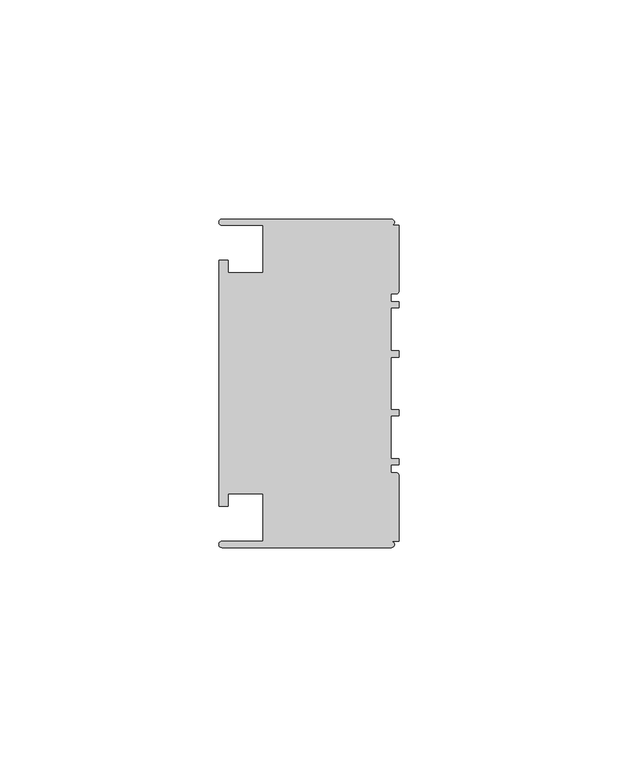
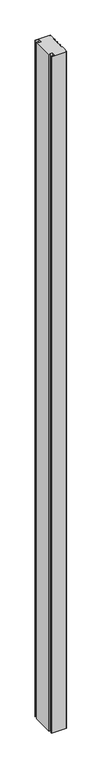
"""IFC4 building model written with IfcOpenShell, lengths in millimetres: member geometry, Прямоугольный импост : 3-AMG-2-Профиль 40Х75 Верх П."""

from ifc_helpers import new_model, si_unit, point, frame, frame_2d, origin, place, context, project, spatial, polyline, circle_curve, trimmed, segment, composite_curve, outline, extrude, source, transform, mapped, element, save


def member_5242edbb(model_context):
    return source(origin(), model_context, "Body", "SweptSolid", [
        extrude(outline(composite_curve([segment(polyline([(-1.7, -37.5), (-40.4, -37.5)]), True, "CONTINUOUS"), segment(trimmed(circle_curve(frame_2d((-40.4, -36.8)), 0.7), [point((-40.4, -37.5))], [point((-40.4, -36.1))], False, "CARTESIAN"), True, "CONTINUOUS"), segment(polyline([(-40.4, -36.1), (-31.0, -36.1), (-31.0, -25.25), (-39.0, -25.25), (-39.0, -28.1), (-41.1, -28.1), (-41.1, 28.1), (-39.0, 28.1), (-39.0, 25.25), (-31.0, 25.25), (-31.0, 36.1), (-40.4, 36.1)]), True, "CONTINUOUS"), segment(trimmed(circle_curve(frame_2d((-40.4, 36.8)), 0.7), [point((-40.4, 36.1))], [point((-40.4, 37.5))], False, "CARTESIAN"), True, "CONTINUOUS"), segment(polyline([(-40.4, 37.5), (-1.7, 37.5)]), True, "CONTINUOUS"), segment(trimmed(circle_curve(frame_2d((-1.7, 36.8)), 0.7), [point((-1.7, 37.5))], [point((-1.7, 36.1))], False, "CARTESIAN"), True, "CONTINUOUS"), segment(polyline([(-1.7, 36.1), (0.0, 36.1), (0.0, 20.95)]), True, "CONTINUOUS"), segment(trimmed(circle_curve(frame_2d((-0.5, 20.95)), 0.5), [point((0.0, 20.95))], [point((-0.5, 20.45))], False, "CARTESIAN"), True, "CONTINUOUS"), segment(polyline([(-0.5, 20.45), (-1.8, 20.45), (-1.8, 18.65), (0.0, 18.65), (0.0, 17.25), (-1.8, 17.25), (-1.8, 7.4), (0.0, 7.4), (0.0, 6.0), (-1.8, 6.0), (-1.8, -6.0), (0.0, -6.0), (0.0, -7.4), (-1.8, -7.4), (-1.8, -17.25), (0.0, -17.25), (0.0, -18.65), (-1.8, -18.65), (-1.8, -20.45), (-0.5, -20.45)]), True, "CONTINUOUS"), segment(trimmed(circle_curve(frame_2d((-0.5, -20.95)), 0.5), [point((-0.5, -20.45))], [point((0.0, -20.95))], False, "CARTESIAN"), True, "CONTINUOUS"), segment(polyline([(0.0, -20.95), (0.0, -36.1), (-1.7, -36.1)]), True, "CONTINUOUS"), segment(trimmed(circle_curve(frame_2d((-1.7, -36.8)), 0.7), [point((-1.7, -36.1))], [point((-1.7, -37.5))], False, "CARTESIAN"), True, "CONTINUOUS")], self_intersect=False)), frame((0.0, 0.0, -1863.0748553), z_axis=(0.0, 0.0, 1.0), x_axis=(1.0, 0.0, 0.0)), (0.0, 0.0, 1.0), 1863.0748553),
    ])


if __name__ == "__main__":
    model = new_model("IFC4")
    model_context = context("Model", 3, world=origin())
    ifc_project = project(units=[si_unit("LENGTHUNIT", "METRE", prefix="MILLI")], contexts=[model_context])
    site = spatial("IfcSite", under=ifc_project)
    building = spatial("IfcBuilding", under=site)
    placement = place(None, origin())
    member_shape = member_5242edbb(model_context)
    element("IfcMember", 1, ObjectType="Прямоугольный импост : 3-AMG-2-Профиль 40Х75 Верх П", at=placement, inside=building, context=model_context, shape_type="MappedRepresentation", body=[
        mapped(member_shape, transform((0.0, 0.0, 0.0), x_axis=(1.0, 0.0, 0.0), y_axis=(0.0, 1.0, 0.0), z_axis=(0.0, 0.0, 1.0))),
    ])
    save(model, "model.ifc")
